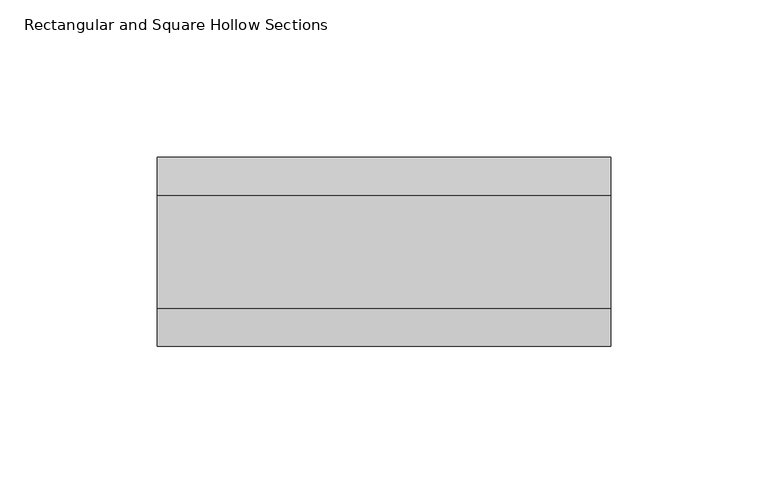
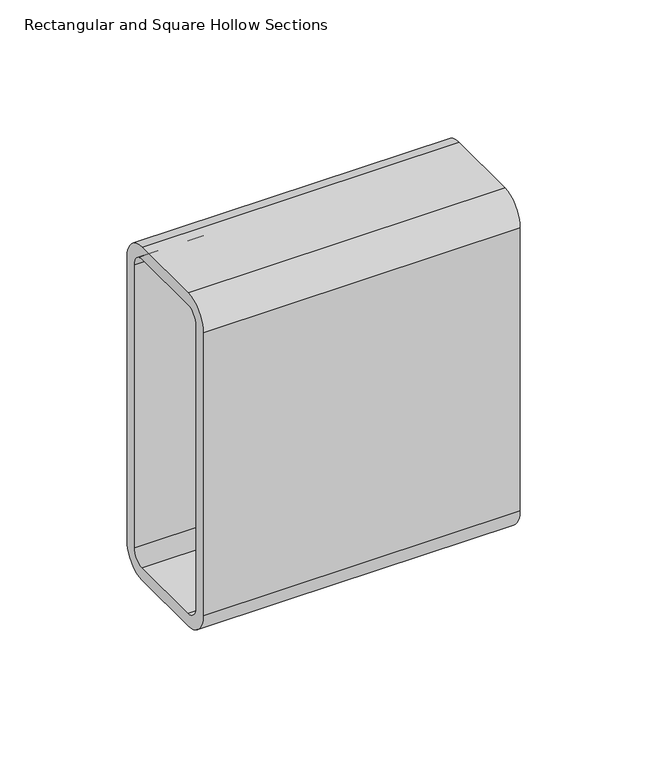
"""IFC4 building model written with IfcOpenShell, lengths in millimetres: beam geometry, Rectangular and Square Hollow Sections : TREC160x60x6."""

from ifc_helpers import new_model, si_unit, point, frame, frame_2d, origin, place, context, project, spatial, polyline, circle_curve, trimmed, segment, composite_curve, outline, extrude, source, transform, mapped, element, save


def rectangular_and_square_hollow_sections_93e47c89(model_context):
    return source(origin(), model_context, "Body", "SweptSolid", [
        extrude(outline(composite_curve([segment(polyline([(30.0, 68.0), (30.0, -68.0)]), True, "CONTINUOUS"), segment(trimmed(circle_curve(frame_2d((18.0, -68.0)), 12.0), [point((30.0, -68.0))], [point((18.0, -80.0))], False, "CARTESIAN"), True, "CONTINUOUS"), segment(polyline([(18.0, -80.0), (-18.0, -80.0)]), True, "CONTINUOUS"), segment(trimmed(circle_curve(frame_2d((-18.0, -68.0)), 12.0), [point((-18.0, -80.0))], [point((-30.0, -68.0))], False, "CARTESIAN"), True, "CONTINUOUS"), segment(polyline([(-30.0, -68.0), (-30.0, 68.0)]), True, "CONTINUOUS"), segment(trimmed(circle_curve(frame_2d((-18.0, 68.0)), 12.0), [point((-30.0, 68.0))], [point((-18.0, 80.0))], False, "CARTESIAN"), True, "CONTINUOUS"), segment(polyline([(-18.0, 80.0), (18.0, 80.0)]), True, "CONTINUOUS"), segment(trimmed(circle_curve(frame_2d((18.0, 68.0)), 12.0), [point((18.0, 80.0))], [point((30.0, 68.0))], False, "CARTESIAN"), True, "CONTINUOUS")], self_intersect=False), holes=[composite_curve([segment(trimmed(circle_curve(frame_2d((-18.0, 68.0)), 6.0), [point((-18.0, 74.0))], [point((-24.0, 68.0))], True, "CARTESIAN"), True, "CONTINUOUS"), segment(polyline([(-24.0, 68.0), (-24.0, -68.0)]), True, "CONTINUOUS"), segment(trimmed(circle_curve(frame_2d((-18.0, -68.0)), 6.0), [point((-24.0, -68.0))], [point((-18.0, -74.0))], True, "CARTESIAN"), True, "CONTINUOUS"), segment(polyline([(-18.0, -74.0), (18.0, -74.0)]), True, "CONTINUOUS"), segment(trimmed(circle_curve(frame_2d((18.0, -68.0)), 6.0), [point((18.0, -74.0))], [point((24.0, -68.0))], True, "CARTESIAN"), True, "CONTINUOUS"), segment(polyline([(24.0, -68.0), (24.0, 68.0)]), True, "CONTINUOUS"), segment(trimmed(circle_curve(frame_2d((18.0, 68.0)), 6.0), [point((24.0, 68.0))], [point((18.0, 74.0))], True, "CARTESIAN"), True, "CONTINUOUS"), segment(polyline([(18.0, 74.0), (-18.0, 74.0)]), True, "CONTINUOUS")], self_intersect=False)]), frame((-82.5, 0.0, 0.0), z_axis=(1.0, 0.0, 0.0), x_axis=(0.0, 1.0, 0.0)), (0.0, 0.0, 1.0), 144.0),
    ])


if __name__ == "__main__":
    model = new_model("IFC4")
    model_context = context("Model", 3, world=origin())
    ifc_project = project(units=[si_unit("LENGTHUNIT", "METRE", prefix="MILLI")], contexts=[model_context])
    site = spatial("IfcSite", under=ifc_project)
    building = spatial("IfcBuilding", under=site)
    placement = place(None, origin())
    rectangular_and_square_hollow_sections_shape = rectangular_and_square_hollow_sections_93e47c89(model_context)
    element("IfcBeam", 1, ObjectType="Rectangular and Square Hollow Sections : TREC160x60x6", at=placement, inside=building, context=model_context, shape_type="MappedRepresentation", body=[
        mapped(rectangular_and_square_hollow_sections_shape, transform((0.0, 0.0, 0.0), x_axis=(1.0, 0.0, 0.0), y_axis=(0.0, 1.0, 0.0), z_axis=(0.0, 0.0, 1.0))),
    ])
    save(model, "model.ifc")
